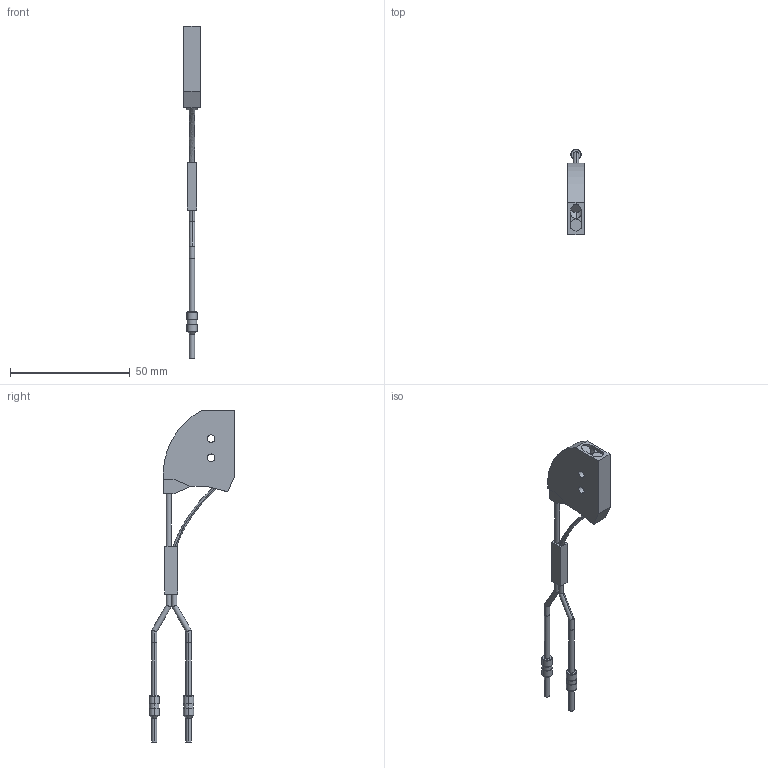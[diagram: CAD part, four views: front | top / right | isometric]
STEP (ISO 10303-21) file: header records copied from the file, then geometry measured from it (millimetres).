
FILE_DESCRIPTION (( 'STEP AP203' ), '1' );
FILE_NAME ('FD-L53.STEP', '2005-10-25T04:10:33', ( '川島' ), ( ' ' ), 'SwSTEP 2.0', 'SolidWorks 2003240', '' );
FILE_SCHEMA (( 'CONFIG_CONTROL_DESIGN' ));
Length unit declared in the file: millimetre
Products named in the file (1): FD-L53
Bounding box: 7 x 35.97 x 138.9 mm (x, y, z)
Volume: 7003.6 mm3; surface area: 4474.8 mm2
Topology: 3 solids, 3 shells, 96 faces, 215 edges, 136 vertices
Faces by surface type: cylinder 43, plane 43, cone 8, bspline 2
Entity records: 2816 total; most frequent: CARTESIAN_POINT 598, DIRECTION 455, ORIENTED_EDGE 430, EDGE_CURVE 215, AXIS2_PLACEMENT_3D 169, VERTEX_POINT 136, VECTOR 117, LINE 117
